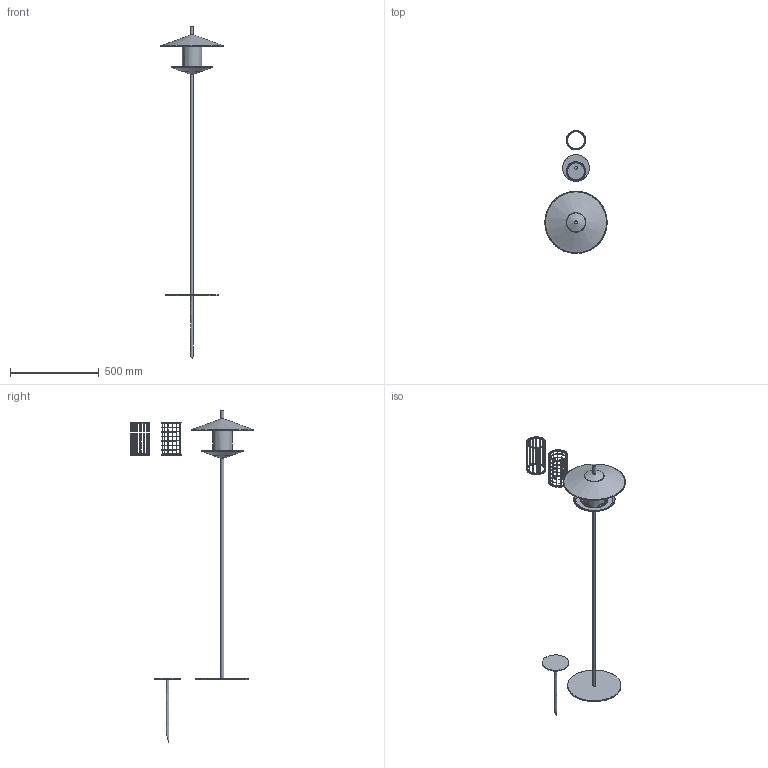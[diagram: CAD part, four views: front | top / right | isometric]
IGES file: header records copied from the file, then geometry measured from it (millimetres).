
Global section: file name: /Users/carolinacolombo/Desktop/Danese/Sito/3D mancanti/Ori_originali/Ori_Floor standing_Bird feeder.igs; native system: Rhinoceros ( Dec  3 2024 ); preprocessor: Trout Lake IGES 012 Dec  3 2024; date: 261005.154413; units: millimetre
Bounding box: 349.99 x 691.83 x 1868.85 mm (x, y, z)
Surface area: 980899.2 mm2 (no closed solid volume)
Topology: 0 solids, 0 shells, 466 faces, 3565 edges, 3311 vertices
Faces by surface type: bspline 466
